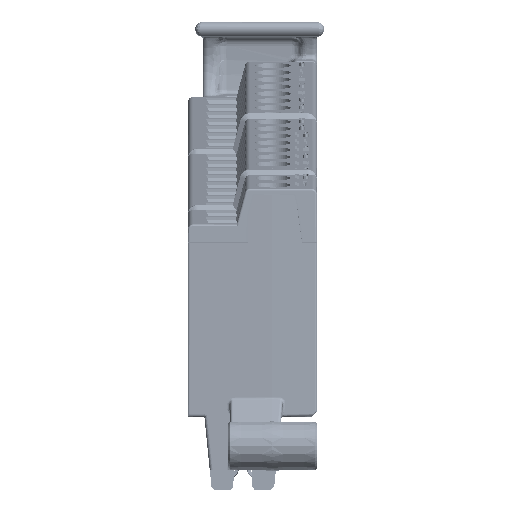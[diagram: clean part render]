
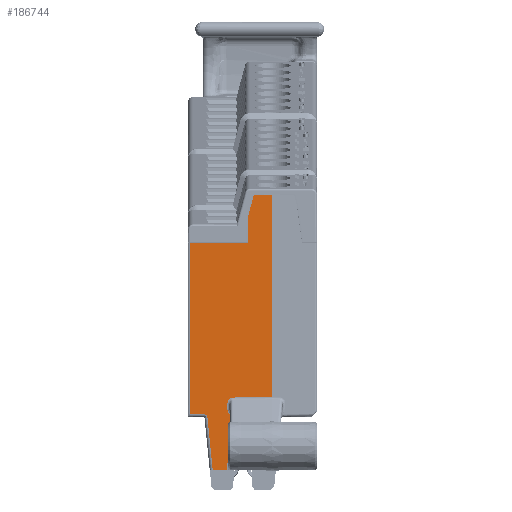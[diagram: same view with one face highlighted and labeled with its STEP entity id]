
A CAD part, front view. The second image highlights one B-rep face of the part: STEP entity #186744.
In plain terms, the highlighted planar face has unit normal (-0.018, -1, 0).
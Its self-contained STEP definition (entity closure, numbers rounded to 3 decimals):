
#2244=DIRECTION('',(0.,0.,1.));
#2245=VECTOR('',#2244,20.53);
#2246=CARTESIAN_POINT('',(15.25,88.425,-14.695));
#2247=LINE('',#2246,#2245);
#4580=DIRECTION('',(-1.,0.017,0.002));
#4581=VECTOR('',#4580,5.904);
#4582=CARTESIAN_POINT('',(12.75,88.469,0.99));
#4583=LINE('',#4582,#4581);
#26329=DIRECTION('',(-1.,0.017,0.));
#26330=VECTOR('',#26329,1.9);
#26331=CARTESIAN_POINT('',(15.25,88.425,5.834));
#26332=LINE('',#26331,#26330);
#44982=CARTESIAN_POINT('',(9.17,88.532,
-22.046));
#44990=DIRECTION('',(0.259,-0.005,0.966));
#44991=VECTOR('',#44990,2.13);
#44992=CARTESIAN_POINT('',(12.799,88.468,3.777));
#44993=LINE('',#44992,#44991);
#44994=DIRECTION('',(-1.,0.017,-0.008));
#44995=VECTOR('',#44994,4.006);
#44996=CARTESIAN_POINT('',(15.25,88.425,
-14.695));
#44997=LINE('',#44996,#44995);
#44998=CARTESIAN_POINT('',(10.655,88.506,
-15.796));
#44999=CARTESIAN_POINT('',(10.655,88.506,
-15.887));
#45000=CARTESIAN_POINT('',(10.673,88.505,
-16.023));
#45001=CARTESIAN_POINT('',(10.735,88.504,
-16.197));
#45002=CARTESIAN_POINT('',(10.79,88.503,
-16.297));
#45003=CARTESIAN_POINT('',(10.842,88.502,
-16.369));
#45004=CARTESIAN_POINT('',(10.898,88.501,
-16.433));
#45005=CARTESIAN_POINT('',(10.981,88.5,
-16.504));
#45006=CARTESIAN_POINT('',(11.099,88.498,
-16.566));
#45007=CARTESIAN_POINT('',(11.189,88.496,
-16.585));
#45008=CARTESIAN_POINT('',(11.234,88.495,
-16.588));
#45010=DIRECTION('',(0.998,-0.017,-0.06));
#45011=VECTOR('',#45010,2.825);
#45012=CARTESIAN_POINT('',(11.234,88.495,
-16.588));
#45013=LINE('',#45012,#45011);
#45014=DIRECTION('',(-0.999,0.017,-0.035));
#45015=VECTOR('',#45014,2.821);
#45016=CARTESIAN_POINT('',(14.053,88.446,
-20.859));
#45017=LINE('',#45016,#45015);
#45018=CARTESIAN_POINT('',(11.234,88.495,
-20.957));
#45019=CARTESIAN_POINT('',(11.153,88.497,
-20.961));
#45020=CARTESIAN_POINT('',(11.004,88.5,
-20.996));
#45021=CARTESIAN_POINT('',(10.813,88.503,
-21.13));
#45022=CARTESIAN_POINT('',(10.686,88.505,
-21.326));
#45023=CARTESIAN_POINT('',(10.657,88.506,
-21.475));
#45024=CARTESIAN_POINT('',(10.655,88.506,
-21.557));
#45026=DIRECTION('',(-1.,0.017,0.017));
#45027=VECTOR('',#45026,1.486);
#45028=CARTESIAN_POINT('',(10.655,88.506,
-22.072));
#45029=LINE('',#45028,#45027);
#45030=DIRECTION('',(-0.1,0.002,0.995));
#45031=VECTOR('',#45030,5.304);
#45032=CARTESIAN_POINT('',(9.17,88.532,
-22.046));
#45033=LINE('',#45032,#45031);
#45034=DIRECTION('',(0.,0.,-1.));
#45035=VECTOR('',#45034,17.405);
#45036=CARTESIAN_POINT('',(6.847,88.572,1.004));
#45037=LINE('',#45036,#45035);
#45055=DIRECTION('',(1.,-0.017,-0.002));
#45056=VECTOR('',#45055,1.396);
#45057=CARTESIAN_POINT('',(6.847,88.572,
-16.401));
#45058=LINE('',#45057,#45056);
#45119=CARTESIAN_POINT('',(8.242,88.548,
-16.404));
#45120=CARTESIAN_POINT('',(8.29,88.547,
-16.403));
#45121=CARTESIAN_POINT('',(8.38,88.545,
-16.42));
#45122=CARTESIAN_POINT('',(8.515,88.543,
-16.497));
#45123=CARTESIAN_POINT('',(8.611,88.541,
-16.626));
#45124=CARTESIAN_POINT('',(8.637,88.541,
-16.718));
#45125=CARTESIAN_POINT('',(8.642,88.541,
-16.768));
#50932=DIRECTION('',(-0.017,0.,-1.));
#50933=VECTOR('',#50932,2.787);
#50934=CARTESIAN_POINT('',(12.799,88.468,3.777));
#50935=LINE('',#50934,#50933);
#52220=DIRECTION('',(0.,0.,1.));
#52221=VECTOR('',#52220,0.515);
#52222=CARTESIAN_POINT('',(10.655,88.506,
-22.072));
#52223=LINE('',#52222,#52221);
#52284=DIRECTION('',(0.,0.,1.));
#52285=VECTOR('',#52284,4.101);
#52286=CARTESIAN_POINT('',(14.053,88.446,
-20.859));
#52287=LINE('',#52286,#52285);
#52455=DIRECTION('',(0.,0.,1.));
#52456=VECTOR('',#52455,0.294);
#52457=CARTESIAN_POINT('',(10.655,88.506,
-15.796));
#52458=LINE('',#52457,#52456);
#52474=CARTESIAN_POINT('',(10.655,88.506,
-15.502));
#52475=CARTESIAN_POINT('',(10.658,88.506,
-15.403));
#52476=CARTESIAN_POINT('',(10.682,88.505,
-15.223));
#52477=CARTESIAN_POINT('',(10.777,88.503,
-15.011));
#52478=CARTESIAN_POINT('',(10.914,88.501,
-14.845));
#52479=CARTESIAN_POINT('',(11.083,88.498,
-14.748));
#52480=CARTESIAN_POINT('',(11.19,88.496,
-14.727));
#52481=CARTESIAN_POINT('',(11.245,88.495,
-14.728));
#95648=VERTEX_POINT('',#44982);
#95667=CARTESIAN_POINT('',(12.799,88.468,3.777));
#95668=CARTESIAN_POINT('',(12.75,88.469,0.99));
#95669=VERTEX_POINT('',#95667);
#95670=VERTEX_POINT('',#95668);
#95671=CARTESIAN_POINT('',(13.35,88.459,5.834));
#95672=VERTEX_POINT('',#95671);
#95673=CARTESIAN_POINT('',(15.25,88.425,
-14.695));
#95674=CARTESIAN_POINT('',(15.25,88.425,5.834));
#95675=VERTEX_POINT('',#95673);
#95676=VERTEX_POINT('',#95674);
#95677=CARTESIAN_POINT('',(11.245,88.495,
-14.728));
#95678=VERTEX_POINT('',#95677);
#95679=VERTEX_POINT('',#44998);
#95680=VERTEX_POINT('',#45008);
#95681=CARTESIAN_POINT('',(14.053,88.446,
-16.758));
#95682=VERTEX_POINT('',#95681);
#95683=CARTESIAN_POINT('',(14.053,88.446,
-20.859));
#95684=CARTESIAN_POINT('',(11.234,88.495,
-20.957));
#95685=VERTEX_POINT('',#95683);
#95686=VERTEX_POINT('',#95684);
#95687=VERTEX_POINT('',#45024);
#95688=CARTESIAN_POINT('',(10.655,88.506,
-22.072));
#95689=VERTEX_POINT('',#95688);
#95690=CARTESIAN_POINT('',(8.642,88.541,
-16.768));
#95691=VERTEX_POINT('',#95690);
#95692=VERTEX_POINT('',#45119);
#95693=CARTESIAN_POINT('',(6.847,88.572,1.004));
#95694=CARTESIAN_POINT('',(6.847,88.572,
-16.401));
#95695=VERTEX_POINT('',#95693);
#95696=VERTEX_POINT('',#95694);
#107840=CARTESIAN_POINT('',(10.655,88.506,
-15.502));
#107841=VERTEX_POINT('',#107840);
#186705=CARTESIAN_POINT('',(11.048,88.499,
-8.119));
#186706=DIRECTION('',(0.017,1.,0.));
#186707=DIRECTION('',(0.,0.,1.));
#186708=AXIS2_PLACEMENT_3D('',#186705,#186706,#186707);
#186709=PLANE('',#186708);
#186711=ORIENTED_EDGE('',*,*,#186710,.F.);
#186712=ORIENTED_EDGE('',*,*,#127753,.F.);
#186714=ORIENTED_EDGE('',*,*,#186713,.F.);
#186715=ORIENTED_EDGE('',*,*,#159553,.T.);
#186716=ORIENTED_EDGE('',*,*,#159540,.F.);
#186717=ORIENTED_EDGE('',*,*,#124463,.F.);
#186719=ORIENTED_EDGE('',*,*,#186718,.T.);
#186721=ORIENTED_EDGE('',*,*,#186720,.F.);
#186723=ORIENTED_EDGE('',*,*,#186722,.F.);
#186725=ORIENTED_EDGE('',*,*,#186724,.T.);
#186727=ORIENTED_EDGE('',*,*,#186726,.T.);
#186729=ORIENTED_EDGE('',*,*,#186728,.F.);
#186731=ORIENTED_EDGE('',*,*,#186730,.T.);
#186733=ORIENTED_EDGE('',*,*,#186732,.T.);
#186735=ORIENTED_EDGE('',*,*,#186734,.F.);
#186736=ORIENTED_EDGE('',*,*,#186668,.T.);
#186737=ORIENTED_EDGE('',*,*,#186696,.T.);
#186739=ORIENTED_EDGE('',*,*,#186738,.F.);
#186741=ORIENTED_EDGE('',*,*,#186740,.F.);
#186742=EDGE_LOOP('',(#186711,#186712,#186714,#186715,#186716,#186717,#186719,
#186721,#186723,#186725,#186727,#186729,#186731,#186733,#186735,#186736,#186737,
#186739,#186741));
#186743=FACE_OUTER_BOUND('',#186742,.F.);
#186744=ADVANCED_FACE('',(#186743),#186709,.F.);
#45009=B_SPLINE_CURVE_WITH_KNOTS('',3,(#44998,#44999,#45000,#45001,#45002,
#45003,#45004,#45005,#45006,#45007,#45008),.UNSPECIFIED.,.F.,.F.,(4,1,1,1,1,1,1,
1,4),(0.,0.263,0.395,0.527,
0.586,0.645,0.763,0.882,1.),
.UNSPECIFIED.);
#45025=B_SPLINE_CURVE_WITH_KNOTS('',3,(#45018,#45019,#45020,#45021,#45022,
#45023,#45024),.UNSPECIFIED.,.F.,.F.,(4,1,1,1,4),(0.,0.25,0.5,0.75,
1.),.UNSPECIFIED.);
#45126=B_SPLINE_CURVE_WITH_KNOTS('',3,(#45119,#45120,#45121,#45122,#45123,
#45124,#45125),.UNSPECIFIED.,.F.,.F.,(4,1,1,1,4),(0.,0.25,0.5,0.75,
1.),.UNSPECIFIED.);
#52482=B_SPLINE_CURVE_WITH_KNOTS('',3,(#52474,#52475,#52476,#52477,#52478,
#52479,#52480,#52481),.UNSPECIFIED.,.F.,.F.,(4,1,1,1,1,4),(0.,0.2,0.4,
0.6,0.8,1.),.UNSPECIFIED.);
#124463=EDGE_CURVE('',#95675,#95676,#2247,.T.);
#127753=EDGE_CURVE('',#95670,#95695,#4583,.T.);
#159540=EDGE_CURVE('',#95676,#95672,#26332,.T.);
#159553=EDGE_CURVE('',#95669,#95672,#44993,.T.);
#186668=EDGE_CURVE('',#95689,#95648,#45029,.T.);
#186696=EDGE_CURVE('',#95648,#95691,#45033,.T.);
#186710=EDGE_CURVE('',#95695,#95696,#45037,.T.);
#186713=EDGE_CURVE('',#95669,#95670,#50935,.T.);
#186718=EDGE_CURVE('',#95675,#95678,#44997,.T.);
#186720=EDGE_CURVE('',#107841,#95678,#52482,.T.);
#186722=EDGE_CURVE('',#95679,#107841,#52458,.T.);
#186724=EDGE_CURVE('',#95679,#95680,#45009,.T.);
#186726=EDGE_CURVE('',#95680,#95682,#45013,.T.);
#186728=EDGE_CURVE('',#95685,#95682,#52287,.T.);
#186730=EDGE_CURVE('',#95685,#95686,#45017,.T.);
#186732=EDGE_CURVE('',#95686,#95687,#45025,.T.);
#186734=EDGE_CURVE('',#95689,#95687,#52223,.T.);
#186738=EDGE_CURVE('',#95692,#95691,#45126,.T.);
#186740=EDGE_CURVE('',#95696,#95692,#45058,.T.);
